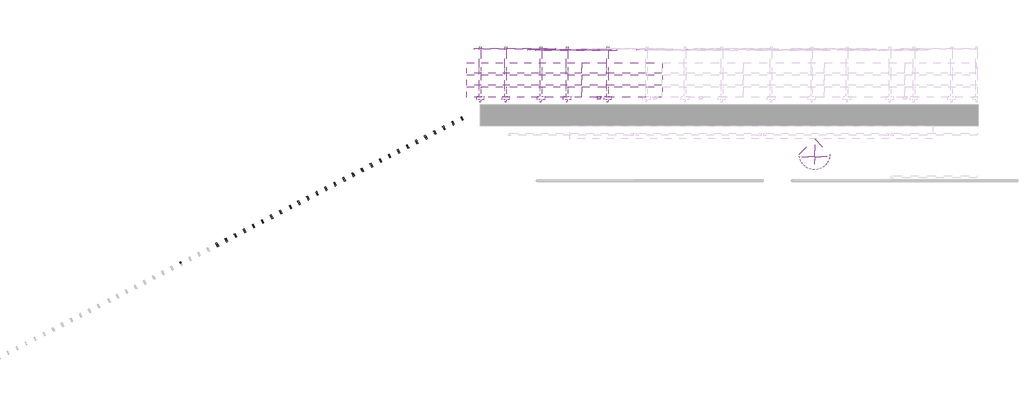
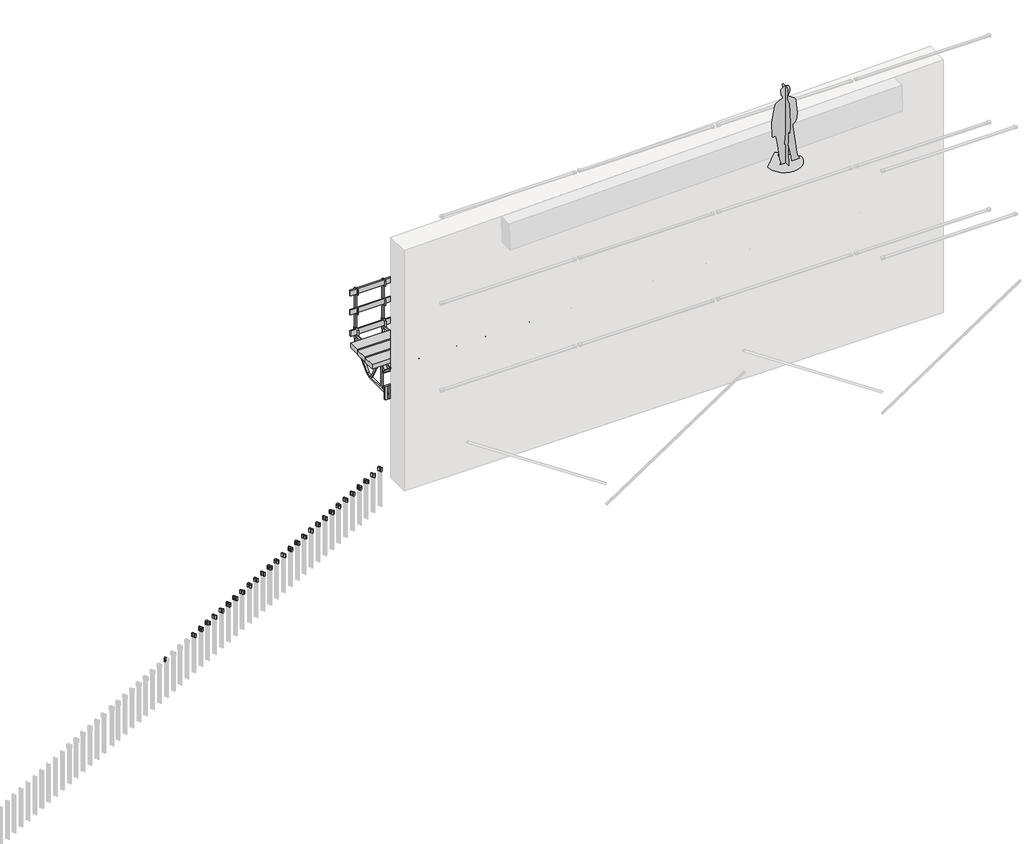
# One storey, part 2 of 7: 132 proxies.
"""IFC4 building model written with IfcOpenShell, lengths in millimetres."""

from ifc_helpers import new_model, si_unit, origin, place, context, project, spatial, transform, mapped, element, save
from components import generic_models_e9040c9c, entourage_6f5007d1, proxy_023680_023680_f2ad0c72, proxy_030370_030370_bbd11c5f, proxy_070711_070711_7d9b2813, proxy_070711_070711_45b70f32, proxy_070711_070711_53d268a1, proxy_070711_070711_2e114157

model = new_model("IFC4")

# Units and contexts
model_context = context("Model", 3, world=origin())
ifc_project = project(units=[si_unit("LENGTHUNIT", "METRE", prefix="MILLI")], contexts=[model_context])

# Site, building, storey
site = spatial("IfcSite", under=ifc_project)
building = spatial("IfcBuilding", under=site)
storey = spatial("IfcBuildingStorey", under=building, Name="Niveau bas piédroits", Elevation=1000.0)

# Proxies
placement = place(None, origin())
generic_models_shape = generic_models_e9040c9c(model_context)
element("IfcBuildingElementProxy", 1, Name="Bouchon de sécurité vertical : Bouchon de sécurité vertical", ObjectType="Bouchon de sécurité vertical : Bouchon de sécurité vertical", at=placement, inside=storey, context=model_context, shape_type="MappedRepresentation", body=[
    mapped(generic_models_shape, transform((-17434.0603814, -7072.0590821, 1504.6594135), x_axis=(0.8886485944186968, 0.45858878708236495, 0.0), y_axis=(-0.45858878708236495, 0.8886485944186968, 0.0), z_axis=(0.0, 0.0, 1.0))),
])
element("IfcBuildingElementProxy", 2, Name="Bouchon de sécurité vertical : Bouchon de sécurité vertical", ObjectType="Bouchon de sécurité vertical : Bouchon de sécurité vertical", at=placement, inside=storey, context=model_context, shape_type="MappedRepresentation", body=[
    mapped(generic_models_shape, transform((-17647.336044, -7182.120391, 1504.6594135), x_axis=(0.8886485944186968, 0.45858878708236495, 0.0), y_axis=(-0.45858878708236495, 0.8886485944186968, 0.0), z_axis=(0.0, 0.0, 1.0))),
])
element("IfcBuildingElementProxy", 3, Name="Bouchon de sécurité vertical : Bouchon de sécurité vertical", ObjectType="Bouchon de sécurité vertical : Bouchon de sécurité vertical", at=placement, inside=storey, context=model_context, shape_type="MappedRepresentation", body=[
    mapped(generic_models_shape, transform((-17860.6117067, -7292.1816999, 1504.6594135), x_axis=(0.8886485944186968, 0.45858878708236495, 0.0), y_axis=(-0.45858878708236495, 0.8886485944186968, 0.0), z_axis=(0.0, 0.0, 1.0))),
])
element("IfcBuildingElementProxy", 4, Name="Bouchon de sécurité vertical : Bouchon de sécurité vertical", ObjectType="Bouchon de sécurité vertical : Bouchon de sécurité vertical", at=placement, inside=storey, context=model_context, shape_type="MappedRepresentation", body=[
    mapped(generic_models_shape, transform((-17220.7847187, -6961.9977732, 1504.6594135), x_axis=(0.8886485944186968, 0.45858878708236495, 0.0), y_axis=(-0.45858878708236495, 0.8886485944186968, 0.0), z_axis=(0.0, 0.0, 1.0))),
])
element("IfcBuildingElementProxy", 5, Name="Bouchon de sécurité vertical : Bouchon de sécurité vertical", ObjectType="Bouchon de sécurité vertical : Bouchon de sécurité vertical", at=placement, inside=storey, context=model_context, shape_type="MappedRepresentation", body=[
    mapped(generic_models_shape, transform((-17007.5090561, -6851.9364643, 1504.6594135), x_axis=(0.8886485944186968, 0.45858878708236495, 0.0), y_axis=(-0.45858878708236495, 0.8886485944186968, 0.0), z_axis=(0.0, 0.0, 1.0))),
])
element("IfcBuildingElementProxy", 6, Name="Bouchon de sécurité vertical : Bouchon de sécurité vertical", ObjectType="Bouchon de sécurité vertical : Bouchon de sécurité vertical", at=placement, inside=storey, context=model_context, shape_type="MappedRepresentation", body=[
    mapped(generic_models_shape, transform((-16794.2333934, -6741.8751554, 1504.6594135), x_axis=(0.8886485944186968, 0.45858878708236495, 0.0), y_axis=(-0.45858878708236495, 0.8886485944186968, 0.0), z_axis=(0.0, 0.0, 1.0))),
])
element("IfcBuildingElementProxy", 7, Name="Bouchon de sécurité vertical : Bouchon de sécurité vertical", ObjectType="Bouchon de sécurité vertical : Bouchon de sécurité vertical", at=placement, inside=storey, context=model_context, shape_type="MappedRepresentation", body=[
    mapped(generic_models_shape, transform((-16580.9577307, -6631.8138465, 1504.6594135), x_axis=(0.8886485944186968, 0.45858878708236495, 0.0), y_axis=(-0.45858878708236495, 0.8886485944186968, 0.0), z_axis=(0.0, 0.0, 1.0))),
])
element("IfcBuildingElementProxy", 8, Name="Bouchon de sécurité vertical : Bouchon de sécurité vertical", ObjectType="Bouchon de sécurité vertical : Bouchon de sécurité vertical", at=placement, inside=storey, context=model_context, shape_type="MappedRepresentation", body=[
    mapped(generic_models_shape, transform((-16367.6820681, -6521.7525376, 1504.6594135), x_axis=(0.8886485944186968, 0.45858878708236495, 0.0), y_axis=(-0.45858878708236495, 0.8886485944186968, 0.0), z_axis=(0.0, 0.0, 1.0))),
])
element("IfcBuildingElementProxy", 9, Name="Bouchon de sécurité vertical : Bouchon de sécurité vertical", ObjectType="Bouchon de sécurité vertical : Bouchon de sécurité vertical", at=placement, inside=storey, context=model_context, shape_type="MappedRepresentation", body=[
    mapped(generic_models_shape, transform((-17459.2827647, -7023.1834094, 1504.6594135), x_axis=(0.8886485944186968, 0.45858878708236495, 0.0), y_axis=(-0.45858878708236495, 0.8886485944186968, 0.0), z_axis=(0.0, 0.0, 1.0))),
])
element("IfcBuildingElementProxy", 10, Name="Bouchon de sécurité vertical : Bouchon de sécurité vertical", ObjectType="Bouchon de sécurité vertical : Bouchon de sécurité vertical", at=placement, inside=storey, context=model_context, shape_type="MappedRepresentation", body=[
    mapped(generic_models_shape, transform((-17672.5584273, -7133.2447183, 1504.6594135), x_axis=(0.8886485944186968, 0.45858878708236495, 0.0), y_axis=(-0.45858878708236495, 0.8886485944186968, 0.0), z_axis=(0.0, 0.0, 1.0))),
])
element("IfcBuildingElementProxy", 11, Name="Bouchon de sécurité vertical : Bouchon de sécurité vertical", ObjectType="Bouchon de sécurité vertical : Bouchon de sécurité vertical", at=placement, inside=storey, context=model_context, shape_type="MappedRepresentation", body=[
    mapped(generic_models_shape, transform((-17885.83409, -7243.3060272, 1504.6594135), x_axis=(0.8886485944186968, 0.45858878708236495, 0.0), y_axis=(-0.45858878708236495, 0.8886485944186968, 0.0), z_axis=(0.0, 0.0, 1.0))),
])
element("IfcBuildingElementProxy", 12, Name="Bouchon de sécurité vertical : Bouchon de sécurité vertical", ObjectType="Bouchon de sécurité vertical : Bouchon de sécurité vertical", at=placement, inside=storey, context=model_context, shape_type="MappedRepresentation", body=[
    mapped(generic_models_shape, transform((-17246.007102, -6913.1221005, 1504.6594135), x_axis=(0.8886485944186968, 0.45858878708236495, 0.0), y_axis=(-0.45858878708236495, 0.8886485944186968, 0.0), z_axis=(0.0, 0.0, 1.0))),
])
element("IfcBuildingElementProxy", 13, Name="Bouchon de sécurité vertical : Bouchon de sécurité vertical", ObjectType="Bouchon de sécurité vertical : Bouchon de sécurité vertical", at=placement, inside=storey, context=model_context, shape_type="MappedRepresentation", body=[
    mapped(generic_models_shape, transform((-17032.7314393, -6803.0607916, 1504.6594135), x_axis=(0.8886485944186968, 0.45858878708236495, 0.0), y_axis=(-0.45858878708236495, 0.8886485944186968, 0.0), z_axis=(0.0, 0.0, 1.0))),
])
element("IfcBuildingElementProxy", 14, Name="Bouchon de sécurité vertical : Bouchon de sécurité vertical", ObjectType="Bouchon de sécurité vertical : Bouchon de sécurité vertical", at=placement, inside=storey, context=model_context, shape_type="MappedRepresentation", body=[
    mapped(generic_models_shape, transform((-18739.4150287, -7683.7980843, 1504.6594135), x_axis=(0.8886485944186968, 0.45858878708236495, 0.0), y_axis=(-0.45858878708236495, 0.8886485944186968, 0.0), z_axis=(0.0, 0.0, 1.0))),
])
element("IfcBuildingElementProxy", 15, Name="Bouchon de sécurité vertical : Bouchon de sécurité vertical", ObjectType="Bouchon de sécurité vertical : Bouchon de sécurité vertical", at=placement, inside=storey, context=model_context, shape_type="MappedRepresentation", body=[
    mapped(generic_models_shape, transform((-16819.4557767, -6692.9994827, 1504.6594135), x_axis=(0.8886485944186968, 0.45858878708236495, 0.0), y_axis=(-0.45858878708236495, 0.8886485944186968, 0.0), z_axis=(0.0, 0.0, 1.0))),
])
element("IfcBuildingElementProxy", 16, Name="Bouchon de sécurité vertical : Bouchon de sécurité vertical", ObjectType="Bouchon de sécurité vertical : Bouchon de sécurité vertical", at=placement, inside=storey, context=model_context, shape_type="MappedRepresentation", body=[
    mapped(generic_models_shape, transform((-16606.180114, -6582.9381738, 1504.6594135), x_axis=(0.8886485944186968, 0.45858878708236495, 0.0), y_axis=(-0.45858878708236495, 0.8886485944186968, 0.0), z_axis=(0.0, 0.0, 1.0))),
])
element("IfcBuildingElementProxy", 17, Name="Bouchon de sécurité vertical : Bouchon de sécurité vertical", ObjectType="Bouchon de sécurité vertical : Bouchon de sécurité vertical", at=placement, inside=storey, context=model_context, shape_type="MappedRepresentation", body=[
    mapped(generic_models_shape, transform((-16392.9044514, -6472.8768649, 1504.6594135), x_axis=(0.8886485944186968, 0.45858878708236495, 0.0), y_axis=(-0.45858878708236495, 0.8886485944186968, 0.0), z_axis=(0.0, 0.0, 1.0))),
])
element("IfcBuildingElementProxy", 18, Name="Bouchon de sécurité vertical : Bouchon de sécurité vertical", ObjectType="Bouchon de sécurité vertical : Bouchon de sécurité vertical", at=placement, inside=storey, context=model_context, shape_type="MappedRepresentation", body=[
    mapped(generic_models_shape, transform((-13168.5471282, -4870.8329041, 1504.6594135), x_axis=(0.8886485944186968, 0.45858878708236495, 0.0), y_axis=(-0.45858878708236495, 0.8886485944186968, 0.0), z_axis=(0.0, 0.0, 1.0))),
])
element("IfcBuildingElementProxy", 19, Name="Bouchon de sécurité vertical : Bouchon de sécurité vertical", ObjectType="Bouchon de sécurité vertical : Bouchon de sécurité vertical", at=placement, inside=storey, context=model_context, shape_type="MappedRepresentation", body=[
    mapped(generic_models_shape, transform((-13381.8227908, -4980.894213, 1504.6594135), x_axis=(0.8886485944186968, 0.45858878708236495, 0.0), y_axis=(-0.45858878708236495, 0.8886485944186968, 0.0), z_axis=(0.0, 0.0, 1.0))),
])
element("IfcBuildingElementProxy", 20, Name="Bouchon de sécurité vertical : Bouchon de sécurité vertical", ObjectType="Bouchon de sécurité vertical : Bouchon de sécurité vertical", at=placement, inside=storey, context=model_context, shape_type="MappedRepresentation", body=[
    mapped(generic_models_shape, transform((-13595.0984535, -5090.9555219, 1504.6594135), x_axis=(0.8886485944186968, 0.45858878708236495, 0.0), y_axis=(-0.45858878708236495, 0.8886485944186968, 0.0), z_axis=(0.0, 0.0, 1.0))),
])
element("IfcBuildingElementProxy", 21, Name="Bouchon de sécurité vertical : Bouchon de sécurité vertical", ObjectType="Bouchon de sécurité vertical : Bouchon de sécurité vertical", at=placement, inside=storey, context=model_context, shape_type="MappedRepresentation", body=[
    mapped(generic_models_shape, transform((-13808.3741161, -5201.0168308, 1504.6594135), x_axis=(0.8886485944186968, 0.45858878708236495, 0.0), y_axis=(-0.45858878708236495, 0.8886485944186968, 0.0), z_axis=(0.0, 0.0, 1.0))),
])
element("IfcBuildingElementProxy", 22, Name="Bouchon de sécurité vertical : Bouchon de sécurité vertical", ObjectType="Bouchon de sécurité vertical : Bouchon de sécurité vertical", at=placement, inside=storey, context=model_context, shape_type="MappedRepresentation", body=[
    mapped(generic_models_shape, transform((-14021.6497788, -5311.0781397, 1504.6594135), x_axis=(0.8886485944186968, 0.45858878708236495, 0.0), y_axis=(-0.45858878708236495, 0.8886485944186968, 0.0), z_axis=(0.0, 0.0, 1.0))),
])
element("IfcBuildingElementProxy", 23, Name="Bouchon de sécurité vertical : Bouchon de sécurité vertical", ObjectType="Bouchon de sécurité vertical : Bouchon de sécurité vertical", at=placement, inside=storey, context=model_context, shape_type="MappedRepresentation", body=[
    mapped(generic_models_shape, transform((-14234.9254415, -5421.1394486, 1504.6594135), x_axis=(0.8886485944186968, 0.45858878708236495, 0.0), y_axis=(-0.45858878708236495, 0.8886485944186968, 0.0), z_axis=(0.0, 0.0, 1.0))),
])
element("IfcBuildingElementProxy", 24, Name="Bouchon de sécurité vertical : Bouchon de sécurité vertical", ObjectType="Bouchon de sécurité vertical : Bouchon de sécurité vertical", at=placement, inside=storey, context=model_context, shape_type="MappedRepresentation", body=[
    mapped(generic_models_shape, transform((-12955.2714655, -4760.7715952, 1504.6594135), x_axis=(0.8886485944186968, 0.45858878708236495, 0.0), y_axis=(-0.45858878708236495, 0.8886485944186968, 0.0), z_axis=(0.0, 0.0, 1.0))),
])
element("IfcBuildingElementProxy", 25, Name="Bouchon de sécurité vertical : Bouchon de sécurité vertical", ObjectType="Bouchon de sécurité vertical : Bouchon de sécurité vertical", at=placement, inside=storey, context=model_context, shape_type="MappedRepresentation", body=[
    mapped(generic_models_shape, transform((-12741.9958028, -4650.7102863, 1504.6594135), x_axis=(0.8886485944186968, 0.45858878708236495, 0.0), y_axis=(-0.45858878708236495, 0.8886485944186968, 0.0), z_axis=(0.0, 0.0, 1.0))),
])
element("IfcBuildingElementProxy", 26, Name="Bouchon de sécurité vertical : Bouchon de sécurité vertical", ObjectType="Bouchon de sécurité vertical : Bouchon de sécurité vertical", at=placement, inside=storey, context=model_context, shape_type="MappedRepresentation", body=[
    mapped(generic_models_shape, transform((-14661.9550549, -5641.5088879, 1504.6594135), x_axis=(0.8886485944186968, 0.45858878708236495, 0.0), y_axis=(-0.45858878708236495, 0.8886485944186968, 0.0), z_axis=(0.0, 0.0, 1.0))),
])
element("IfcBuildingElementProxy", 27, Name="Bouchon de sécurité vertical : Bouchon de sécurité vertical", ObjectType="Bouchon de sécurité vertical : Bouchon de sécurité vertical", at=placement, inside=storey, context=model_context, shape_type="MappedRepresentation", body=[
    mapped(generic_models_shape, transform((-14448.6793922, -5531.447579, 1504.6594135), x_axis=(0.8886485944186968, 0.45858878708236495, 0.0), y_axis=(-0.45858878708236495, 0.8886485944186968, 0.0), z_axis=(0.0, 0.0, 1.0))),
])
element("IfcBuildingElementProxy", 28, Name="Bouchon de sécurité vertical : Bouchon de sécurité vertical", ObjectType="Bouchon de sécurité vertical : Bouchon de sécurité vertical", at=placement, inside=storey, context=model_context, shape_type="MappedRepresentation", body=[
    mapped(generic_models_shape, transform((-12528.7201402, -4540.6489774, 1504.6594135), x_axis=(0.8886485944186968, 0.45858878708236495, 0.0), y_axis=(-0.45858878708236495, 0.8886485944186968, 0.0), z_axis=(0.0, 0.0, 1.0))),
])
element("IfcBuildingElementProxy", 29, Name="Bouchon de sécurité vertical : Bouchon de sécurité vertical", ObjectType="Bouchon de sécurité vertical : Bouchon de sécurité vertical", at=placement, inside=storey, context=model_context, shape_type="MappedRepresentation", body=[
    mapped(generic_models_shape, transform((-12315.4444775, -4430.5876685, 1504.6594135), x_axis=(0.8886485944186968, 0.45858878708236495, 0.0), y_axis=(-0.45858878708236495, 0.8886485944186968, 0.0), z_axis=(0.0, 0.0, 1.0))),
])
element("IfcBuildingElementProxy", 30, Name="Bouchon de sécurité vertical : Bouchon de sécurité vertical", ObjectType="Bouchon de sécurité vertical : Bouchon de sécurité vertical", at=placement, inside=storey, context=model_context, shape_type="MappedRepresentation", body=[
    mapped(generic_models_shape, transform((-12102.1688149, -4320.5263596, 1504.6594135), x_axis=(0.8886485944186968, 0.45858878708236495, 0.0), y_axis=(-0.45858878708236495, 0.8886485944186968, 0.0), z_axis=(0.0, 0.0, 1.0))),
])
element("IfcBuildingElementProxy", 31, Name="Bouchon de sécurité vertical : Bouchon de sécurité vertical", ObjectType="Bouchon de sécurité vertical : Bouchon de sécurité vertical", at=placement, inside=storey, context=model_context, shape_type="MappedRepresentation", body=[
    mapped(generic_models_shape, transform((-13193.7695115, -4821.9572314, 1504.6594135), x_axis=(0.8886485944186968, 0.45858878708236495, 0.0), y_axis=(-0.45858878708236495, 0.8886485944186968, 0.0), z_axis=(0.0, 0.0, 1.0))),
])
element("IfcBuildingElementProxy", 32, Name="Bouchon de sécurité vertical : Bouchon de sécurité vertical", ObjectType="Bouchon de sécurité vertical : Bouchon de sécurité vertical", at=placement, inside=storey, context=model_context, shape_type="MappedRepresentation", body=[
    mapped(generic_models_shape, transform((-13407.0451741, -4932.0185403, 1504.6594135), x_axis=(0.8886485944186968, 0.45858878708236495, 0.0), y_axis=(-0.45858878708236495, 0.8886485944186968, 0.0), z_axis=(0.0, 0.0, 1.0))),
])
element("IfcBuildingElementProxy", 33, Name="Bouchon de sécurité vertical : Bouchon de sécurité vertical", ObjectType="Bouchon de sécurité vertical : Bouchon de sécurité vertical", at=placement, inside=storey, context=model_context, shape_type="MappedRepresentation", body=[
    mapped(generic_models_shape, transform((-13620.3208368, -5042.0798492, 1504.6594135), x_axis=(0.8886485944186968, 0.45858878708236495, 0.0), y_axis=(-0.45858878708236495, 0.8886485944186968, 0.0), z_axis=(0.0, 0.0, 1.0))),
])
element("IfcBuildingElementProxy", 34, Name="Bouchon de sécurité vertical : Bouchon de sécurité vertical", ObjectType="Bouchon de sécurité vertical : Bouchon de sécurité vertical", at=placement, inside=storey, context=model_context, shape_type="MappedRepresentation", body=[
    mapped(generic_models_shape, transform((-13833.5964994, -5152.1411581, 1504.6594135), x_axis=(0.8886485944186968, 0.45858878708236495, 0.0), y_axis=(-0.45858878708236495, 0.8886485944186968, 0.0), z_axis=(0.0, 0.0, 1.0))),
])
element("IfcBuildingElementProxy", 35, Name="Bouchon de sécurité vertical : Bouchon de sécurité vertical", ObjectType="Bouchon de sécurité vertical : Bouchon de sécurité vertical", at=placement, inside=storey, context=model_context, shape_type="MappedRepresentation", body=[
    mapped(generic_models_shape, transform((-14046.8721621, -5262.202467, 1504.6594135), x_axis=(0.8886485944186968, 0.45858878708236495, 0.0), y_axis=(-0.45858878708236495, 0.8886485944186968, 0.0), z_axis=(0.0, 0.0, 1.0))),
])
element("IfcBuildingElementProxy", 36, Name="Bouchon de sécurité vertical : Bouchon de sécurité vertical", ObjectType="Bouchon de sécurité vertical : Bouchon de sécurité vertical", at=placement, inside=storey, context=model_context, shape_type="MappedRepresentation", body=[
    mapped(generic_models_shape, transform((-14260.1478248, -5372.2637759, 1504.6594135), x_axis=(0.8886485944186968, 0.45858878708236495, 0.0), y_axis=(-0.45858878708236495, 0.8886485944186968, 0.0), z_axis=(0.0, 0.0, 1.0))),
])
element("IfcBuildingElementProxy", 37, Name="Bouchon de sécurité vertical : Bouchon de sécurité vertical", ObjectType="Bouchon de sécurité vertical : Bouchon de sécurité vertical", at=placement, inside=storey, context=model_context, shape_type="MappedRepresentation", body=[
    mapped(generic_models_shape, transform((-12980.4938488, -4711.8959225, 1504.6594135), x_axis=(0.8886485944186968, 0.45858878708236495, 0.0), y_axis=(-0.45858878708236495, 0.8886485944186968, 0.0), z_axis=(0.0, 0.0, 1.0))),
])
element("IfcBuildingElementProxy", 38, Name="Bouchon de sécurité vertical : Bouchon de sécurité vertical", ObjectType="Bouchon de sécurité vertical : Bouchon de sécurité vertical", at=placement, inside=storey, context=model_context, shape_type="MappedRepresentation", body=[
    mapped(generic_models_shape, transform((-12767.2181861, -4601.8346136, 1504.6594135), x_axis=(0.8886485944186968, 0.45858878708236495, 0.0), y_axis=(-0.45858878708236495, 0.8886485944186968, 0.0), z_axis=(0.0, 0.0, 1.0))),
])
element("IfcBuildingElementProxy", 39, Name="Bouchon de sécurité vertical : Bouchon de sécurité vertical", ObjectType="Bouchon de sécurité vertical : Bouchon de sécurité vertical", at=placement, inside=storey, context=model_context, shape_type="MappedRepresentation", body=[
    mapped(generic_models_shape, transform((-14687.1774382, -5592.6332152, 1504.6594135), x_axis=(0.8886485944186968, 0.45858878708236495, 0.0), y_axis=(-0.45858878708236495, 0.8886485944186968, 0.0), z_axis=(0.0, 0.0, 1.0))),
])
element("IfcBuildingElementProxy", 40, Name="Bouchon de sécurité vertical : Bouchon de sécurité vertical", ObjectType="Bouchon de sécurité vertical : Bouchon de sécurité vertical", at=placement, inside=storey, context=model_context, shape_type="MappedRepresentation", body=[
    mapped(generic_models_shape, transform((-14473.9017755, -5482.5719063, 1504.6594135), x_axis=(0.8886485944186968, 0.45858878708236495, 0.0), y_axis=(-0.45858878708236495, 0.8886485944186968, 0.0), z_axis=(0.0, 0.0, 1.0))),
])
element("IfcBuildingElementProxy", 41, Name="Bouchon de sécurité vertical : Bouchon de sécurité vertical", ObjectType="Bouchon de sécurité vertical : Bouchon de sécurité vertical", at=placement, inside=storey, context=model_context, shape_type="MappedRepresentation", body=[
    mapped(generic_models_shape, transform((-12553.9425235, -4491.7733047, 1504.6594135), x_axis=(0.8886485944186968, 0.45858878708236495, 0.0), y_axis=(-0.45858878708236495, 0.8886485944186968, 0.0), z_axis=(0.0, 0.0, 1.0))),
])
element("IfcBuildingElementProxy", 42, Name="Bouchon de sécurité vertical : Bouchon de sécurité vertical", ObjectType="Bouchon de sécurité vertical : Bouchon de sécurité vertical", at=placement, inside=storey, context=model_context, shape_type="MappedRepresentation", body=[
    mapped(generic_models_shape, transform((-12340.6668608, -4381.7119958, 1504.6594135), x_axis=(0.8886485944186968, 0.45858878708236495, 0.0), y_axis=(-0.45858878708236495, 0.8886485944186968, 0.0), z_axis=(0.0, 0.0, 1.0))),
])
element("IfcBuildingElementProxy", 43, Name="Bouchon de sécurité vertical : Bouchon de sécurité vertical", ObjectType="Bouchon de sécurité vertical : Bouchon de sécurité vertical", at=placement, inside=storey, context=model_context, shape_type="MappedRepresentation", body=[
    mapped(generic_models_shape, transform((-12127.3911982, -4271.6506869, 1504.6594135), x_axis=(0.8886485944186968, 0.45858878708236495, 0.0), y_axis=(-0.45858878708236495, 0.8886485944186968, 0.0), z_axis=(0.0, 0.0, 1.0))),
])
element("IfcBuildingElementProxy", 44, Name="Bouchon de sécurité vertical : Bouchon de sécurité vertical", ObjectType="Bouchon de sécurité vertical : Bouchon de sécurité vertical", at=placement, inside=storey, context=model_context, shape_type="MappedRepresentation", body=[
    mapped(generic_models_shape, transform((-14875.7966207, -5750.4666078, 1504.6594135), x_axis=(0.8886485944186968, 0.45858878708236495, 0.0), y_axis=(-0.45858878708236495, 0.8886485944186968, 0.0), z_axis=(0.0, 0.0, 1.0))),
])
element("IfcBuildingElementProxy", 45, Name="Bouchon de sécurité vertical : Bouchon de sécurité vertical", ObjectType="Bouchon de sécurité vertical : Bouchon de sécurité vertical", at=placement, inside=storey, context=model_context, shape_type="MappedRepresentation", body=[
    mapped(generic_models_shape, transform((-14901.019004, -5701.5909351, 1504.6594135), x_axis=(0.8886485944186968, 0.45858878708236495, 0.0), y_axis=(-0.45858878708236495, 0.8886485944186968, 0.0), z_axis=(0.0, 0.0, 1.0))),
])
element("IfcBuildingElementProxy", 46, Name="Bouchon de sécurité vertical : Bouchon de sécurité vertical", ObjectType="Bouchon de sécurité vertical : Bouchon de sécurité vertical", at=placement, inside=storey, context=model_context, shape_type="MappedRepresentation", body=[
    mapped(generic_models_shape, transform((-15088.8560142, -5864.3627695, 1504.6594135), x_axis=(0.8886485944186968, 0.45858878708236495, 0.0), y_axis=(-0.45858878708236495, 0.8886485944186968, 0.0), z_axis=(0.0, 0.0, 1.0))),
])
element("IfcBuildingElementProxy", 47, Name="Bouchon de sécurité vertical : Bouchon de sécurité vertical", ObjectType="Bouchon de sécurité vertical : Bouchon de sécurité vertical", at=placement, inside=storey, context=model_context, shape_type="MappedRepresentation", body=[
    mapped(generic_models_shape, transform((-15114.0783975, -5815.4870968, 1504.6594135), x_axis=(0.8886485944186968, 0.45858878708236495, 0.0), y_axis=(-0.45858878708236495, 0.8886485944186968, 0.0), z_axis=(0.0, 0.0, 1.0))),
])
element("IfcBuildingElementProxy", 48, Name="Bouchon de sécurité vertical : Bouchon de sécurité vertical", ObjectType="Bouchon de sécurité vertical : Bouchon de sécurité vertical", at=placement, inside=storey, context=model_context, shape_type="MappedRepresentation", body=[
    mapped(generic_models_shape, transform((-15301.5456088, -5972.0975028, 1504.6594135), x_axis=(0.8886485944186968, 0.45858878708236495, 0.0), y_axis=(-0.45858878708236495, 0.8886485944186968, 0.0), z_axis=(0.0, 0.0, 1.0))),
])
element("IfcBuildingElementProxy", 49, Name="Bouchon de sécurité vertical : Bouchon de sécurité vertical", ObjectType="Bouchon de sécurité vertical : Bouchon de sécurité vertical", at=placement, inside=storey, context=model_context, shape_type="MappedRepresentation", body=[
    mapped(generic_models_shape, transform((-15326.7679921, -5923.2218301, 1504.6594135), x_axis=(0.8886485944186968, 0.45858878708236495, 0.0), y_axis=(-0.45858878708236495, 0.8886485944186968, 0.0), z_axis=(0.0, 0.0, 1.0))),
])
element("IfcBuildingElementProxy", 50, Name="Bouchon de sécurité vertical : Bouchon de sécurité vertical", ObjectType="Bouchon de sécurité vertical : Bouchon de sécurité vertical", at=placement, inside=storey, context=model_context, shape_type="MappedRepresentation", body=[
    mapped(generic_models_shape, transform((-15514.8212714, -6082.1588117, 1504.6594135), x_axis=(0.8886485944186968, 0.45858878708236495, 0.0), y_axis=(-0.45858878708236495, 0.8886485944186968, 0.0), z_axis=(0.0, 0.0, 1.0))),
])
element("IfcBuildingElementProxy", 51, Name="Bouchon de sécurité vertical : Bouchon de sécurité vertical", ObjectType="Bouchon de sécurité vertical : Bouchon de sécurité vertical", at=placement, inside=storey, context=model_context, shape_type="MappedRepresentation", body=[
    mapped(generic_models_shape, transform((-15540.0436547, -6033.283139, 1504.6594135), x_axis=(0.8886485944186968, 0.45858878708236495, 0.0), y_axis=(-0.45858878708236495, 0.8886485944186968, 0.0), z_axis=(0.0, 0.0, 1.0))),
])
element("IfcBuildingElementProxy", 52, Name="Bouchon de sécurité vertical : Bouchon de sécurité vertical", ObjectType="Bouchon de sécurité vertical : Bouchon de sécurité vertical", at=placement, inside=storey, context=model_context, shape_type="MappedRepresentation", body=[
    mapped(generic_models_shape, transform((-15727.8045911, -6194.0103647, 1504.6594135), x_axis=(0.8886485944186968, 0.45858878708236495, 0.0), y_axis=(-0.45858878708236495, 0.8886485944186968, 0.0), z_axis=(0.0, 0.0, 1.0))),
])
element("IfcBuildingElementProxy", 53, Name="Bouchon de sécurité vertical : Bouchon de sécurité vertical", ObjectType="Bouchon de sécurité vertical : Bouchon de sécurité vertical", at=placement, inside=storey, context=model_context, shape_type="MappedRepresentation", body=[
    mapped(generic_models_shape, transform((-15753.0269744, -6145.134692, 1504.6594135), x_axis=(0.8886485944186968, 0.45858878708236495, 0.0), y_axis=(-0.45858878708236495, 0.8886485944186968, 0.0), z_axis=(0.0, 0.0, 1.0))),
])
element("IfcBuildingElementProxy", 54, Name="Bouchon de sécurité vertical : Bouchon de sécurité vertical", ObjectType="Bouchon de sécurité vertical : Bouchon de sécurité vertical", at=placement, inside=storey, context=model_context, shape_type="MappedRepresentation", body=[
    mapped(generic_models_shape, transform((-15940.4941857, -6301.7450981, 1504.6594135), x_axis=(0.8886485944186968, 0.45858878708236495, 0.0), y_axis=(-0.45858878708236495, 0.8886485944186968, 0.0), z_axis=(0.0, 0.0, 1.0))),
])
element("IfcBuildingElementProxy", 55, Name="Bouchon de sécurité vertical : Bouchon de sécurité vertical", ObjectType="Bouchon de sécurité vertical : Bouchon de sécurité vertical", at=placement, inside=storey, context=model_context, shape_type="MappedRepresentation", body=[
    mapped(generic_models_shape, transform((-15965.716569, -6252.8694254, 1504.6594135), x_axis=(0.8886485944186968, 0.45858878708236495, 0.0), y_axis=(-0.45858878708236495, 0.8886485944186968, 0.0), z_axis=(0.0, 0.0, 1.0))),
])
element("IfcBuildingElementProxy", 56, Name="Bouchon de sécurité vertical : Bouchon de sécurité vertical", ObjectType="Bouchon de sécurité vertical : Bouchon de sécurité vertical", at=placement, inside=storey, context=model_context, shape_type="MappedRepresentation", body=[
    mapped(generic_models_shape, transform((-16136.5156211, -6401.623008, 1504.6594135), x_axis=(0.8886485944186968, 0.45858878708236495, 0.0), y_axis=(-0.45858878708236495, 0.8886485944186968, 0.0), z_axis=(0.0, 0.0, 1.0))),
])
element("IfcBuildingElementProxy", 57, Name="Bouchon de sécurité vertical : Bouchon de sécurité vertical", ObjectType="Bouchon de sécurité vertical : Bouchon de sécurité vertical", at=placement, inside=storey, context=model_context, shape_type="MappedRepresentation", body=[
    mapped(generic_models_shape, transform((-16161.7380043, -6352.7473353, 1504.6594135), x_axis=(0.8886485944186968, 0.45858878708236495, 0.0), y_axis=(-0.45858878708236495, 0.8886485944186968, 0.0), z_axis=(0.0, 0.0, 1.0))),
])
element("IfcBuildingElementProxy", 58, Name="Bouchon de sécurité vertical : Bouchon de sécurité vertical", ObjectType="Bouchon de sécurité vertical : Bouchon de sécurité vertical", at=placement, inside=storey, context=model_context, shape_type="MappedRepresentation", body=[
    mapped(generic_models_shape, transform((-7462.9685766, -4304.6217934, 1708.9775513), x_axis=(1.0, 0.0, 0.0), y_axis=(0.0, 1.0, 0.0), z_axis=(0.0, 0.0, 1.0))),
])
element("IfcBuildingElementProxy", 59, Name="Bouchon de sécurité vertical : Bouchon de sécurité vertical", ObjectType="Bouchon de sécurité vertical : Bouchon de sécurité vertical", at=placement, inside=storey, context=model_context, shape_type="MappedRepresentation", body=[
    mapped(generic_models_shape, transform((-7702.9685766, -4304.6217934, 1708.9775513), x_axis=(1.0, 0.0, 0.0), y_axis=(0.0, 1.0, 0.0), z_axis=(0.0, 0.0, 1.0))),
])
element("IfcBuildingElementProxy", 60, Name="Bouchon de sécurité vertical : Bouchon de sécurité vertical", ObjectType="Bouchon de sécurité vertical : Bouchon de sécurité vertical", at=placement, inside=storey, context=model_context, shape_type="MappedRepresentation", body=[
    mapped(generic_models_shape, transform((-7942.9685766, -4304.6217934, 1708.9775513), x_axis=(1.0, 0.0, 0.0), y_axis=(0.0, 1.0, 0.0), z_axis=(0.0, 0.0, 1.0))),
])
element("IfcBuildingElementProxy", 61, Name="Bouchon de sécurité vertical : Bouchon de sécurité vertical", ObjectType="Bouchon de sécurité vertical : Bouchon de sécurité vertical", at=placement, inside=storey, context=model_context, shape_type="MappedRepresentation", body=[
    mapped(generic_models_shape, transform((-8182.9685766, -4304.6217934, 1708.9775513), x_axis=(1.0, 0.0, 0.0), y_axis=(0.0, 1.0, 0.0), z_axis=(0.0, 0.0, 1.0))),
])
element("IfcBuildingElementProxy", 62, Name="Bouchon de sécurité vertical : Bouchon de sécurité vertical", ObjectType="Bouchon de sécurité vertical : Bouchon de sécurité vertical", at=placement, inside=storey, context=model_context, shape_type="MappedRepresentation", body=[
    mapped(generic_models_shape, transform((-8422.9685766, -4304.6217934, 1708.9775513), x_axis=(1.0, 0.0, 0.0), y_axis=(0.0, 1.0, 0.0), z_axis=(0.0, 0.0, 1.0))),
])
element("IfcBuildingElementProxy", 63, Name="Bouchon de sécurité vertical : Bouchon de sécurité vertical", ObjectType="Bouchon de sécurité vertical : Bouchon de sécurité vertical", at=placement, inside=storey, context=model_context, shape_type="MappedRepresentation", body=[
    mapped(generic_models_shape, transform((-8662.9685766, -4304.6217934, 1708.9775513), x_axis=(1.0, 0.0, 0.0), y_axis=(0.0, 1.0, 0.0), z_axis=(0.0, 0.0, 1.0))),
])
element("IfcBuildingElementProxy", 64, Name="Bouchon de sécurité vertical : Bouchon de sécurité vertical", ObjectType="Bouchon de sécurité vertical : Bouchon de sécurité vertical", at=placement, inside=storey, context=model_context, shape_type="MappedRepresentation", body=[
    mapped(generic_models_shape, transform((-8902.9685766, -4304.6217934, 1708.9775513), x_axis=(1.0, 0.0, 0.0), y_axis=(0.0, 1.0, 0.0), z_axis=(0.0, 0.0, 1.0))),
])
element("IfcBuildingElementProxy", 65, Name="Bouchon de sécurité vertical : Bouchon de sécurité vertical", ObjectType="Bouchon de sécurité vertical : Bouchon de sécurité vertical", at=placement, inside=storey, context=model_context, shape_type="MappedRepresentation", body=[
    mapped(generic_models_shape, transform((-9142.9685766, -4304.6217934, 1708.9775513), x_axis=(1.0, 0.0, 0.0), y_axis=(0.0, 1.0, 0.0), z_axis=(0.0, 0.0, 1.0))),
])
element("IfcBuildingElementProxy", 66, Name="Bouchon de sécurité vertical : Bouchon de sécurité vertical", ObjectType="Bouchon de sécurité vertical : Bouchon de sécurité vertical", at=placement, inside=storey, context=model_context, shape_type="MappedRepresentation", body=[
    mapped(generic_models_shape, transform((-9382.9685766, -4304.6217934, 1708.9775513), x_axis=(1.0, 0.0, 0.0), y_axis=(0.0, 1.0, 0.0), z_axis=(0.0, 0.0, 1.0))),
])
element("IfcBuildingElementProxy", 67, Name="Bouchon de sécurité vertical : Bouchon de sécurité vertical", ObjectType="Bouchon de sécurité vertical : Bouchon de sécurité vertical", at=placement, inside=storey, context=model_context, shape_type="MappedRepresentation", body=[
    mapped(generic_models_shape, transform((-9622.9685766, -4304.6217934, 1708.9775513), x_axis=(1.0, 0.0, 0.0), y_axis=(0.0, 1.0, 0.0), z_axis=(0.0, 0.0, 1.0))),
])
element("IfcBuildingElementProxy", 68, Name="Bouchon de sécurité vertical : Bouchon de sécurité vertical", ObjectType="Bouchon de sécurité vertical : Bouchon de sécurité vertical", at=placement, inside=storey, context=model_context, shape_type="MappedRepresentation", body=[
    mapped(generic_models_shape, transform((-9862.9685766, -4304.6217934, 1708.9775513), x_axis=(1.0, 0.0, 0.0), y_axis=(0.0, 1.0, 0.0), z_axis=(0.0, 0.0, 1.0))),
])
element("IfcBuildingElementProxy", 69, Name="Bouchon de sécurité vertical : Bouchon de sécurité vertical", ObjectType="Bouchon de sécurité vertical : Bouchon de sécurité vertical", at=placement, inside=storey, context=model_context, shape_type="MappedRepresentation", body=[
    mapped(generic_models_shape, transform((-10102.9685766, -4304.6217934, 1708.9775513), x_axis=(1.0, 0.0, 0.0), y_axis=(0.0, 1.0, 0.0), z_axis=(0.0, 0.0, 1.0))),
])
element("IfcBuildingElementProxy", 70, Name="Bouchon de sécurité vertical : Bouchon de sécurité vertical", ObjectType="Bouchon de sécurité vertical : Bouchon de sécurité vertical", at=placement, inside=storey, context=model_context, shape_type="MappedRepresentation", body=[
    mapped(generic_models_shape, transform((-10322.9685766, -4304.6217934, 1708.9775513), x_axis=(1.0, 0.0, 0.0), y_axis=(0.0, 1.0, 0.0), z_axis=(0.0, 0.0, 1.0))),
])
element("IfcBuildingElementProxy", 71, Name="Bouchon de sécurité vertical : Bouchon de sécurité vertical", ObjectType="Bouchon de sécurité vertical : Bouchon de sécurité vertical", at=placement, inside=storey, context=model_context, shape_type="MappedRepresentation", body=[
    mapped(generic_models_shape, transform((-7222.9685766, -4304.6217934, 1708.9775513), x_axis=(1.0, 0.0, 0.0), y_axis=(0.0, 1.0, 0.0), z_axis=(0.0, 0.0, 1.0))),
])
element("IfcBuildingElementProxy", 72, Name="Bouchon de sécurité vertical : Bouchon de sécurité vertical", ObjectType="Bouchon de sécurité vertical : Bouchon de sécurité vertical", at=placement, inside=storey, context=model_context, shape_type="MappedRepresentation", body=[
    mapped(generic_models_shape, transform((-6982.9685766, -4304.6217934, 1708.9775513), x_axis=(1.0, 0.0, 0.0), y_axis=(0.0, 1.0, 0.0), z_axis=(0.0, 0.0, 1.0))),
])
element("IfcBuildingElementProxy", 73, Name="Bouchon de sécurité vertical : Bouchon de sécurité vertical", ObjectType="Bouchon de sécurité vertical : Bouchon de sécurité vertical", at=placement, inside=storey, context=model_context, shape_type="MappedRepresentation", body=[
    mapped(generic_models_shape, transform((-5502.8826516, -4304.6217934, 1708.9775513), x_axis=(1.0, 0.0, 0.0), y_axis=(0.0, 1.0, 0.0), z_axis=(0.0, 0.0, 1.0))),
])
element("IfcBuildingElementProxy", 74, Name="Bouchon de sécurité vertical : Bouchon de sécurité vertical", ObjectType="Bouchon de sécurité vertical : Bouchon de sécurité vertical", at=placement, inside=storey, context=model_context, shape_type="MappedRepresentation", body=[
    mapped(generic_models_shape, transform((-5782.9685766, -4304.6217934, 1708.9775513), x_axis=(1.0, 0.0, 0.0), y_axis=(0.0, 1.0, 0.0), z_axis=(0.0, 0.0, 1.0))),
])
element("IfcBuildingElementProxy", 75, Name="Bouchon de sécurité vertical : Bouchon de sécurité vertical", ObjectType="Bouchon de sécurité vertical : Bouchon de sécurité vertical", at=placement, inside=storey, context=model_context, shape_type="MappedRepresentation", body=[
    mapped(generic_models_shape, transform((-6022.9685766, -4304.6217934, 1708.9775513), x_axis=(1.0, 0.0, 0.0), y_axis=(0.0, 1.0, 0.0), z_axis=(0.0, 0.0, 1.0))),
])
element("IfcBuildingElementProxy", 76, Name="Bouchon de sécurité vertical : Bouchon de sécurité vertical", ObjectType="Bouchon de sécurité vertical : Bouchon de sécurité vertical", at=placement, inside=storey, context=model_context, shape_type="MappedRepresentation", body=[
    mapped(generic_models_shape, transform((-6262.9685766, -4304.6217934, 1708.9775513), x_axis=(1.0, 0.0, 0.0), y_axis=(0.0, 1.0, 0.0), z_axis=(0.0, 0.0, 1.0))),
])
element("IfcBuildingElementProxy", 77, Name="Bouchon de sécurité vertical : Bouchon de sécurité vertical", ObjectType="Bouchon de sécurité vertical : Bouchon de sécurité vertical", at=placement, inside=storey, context=model_context, shape_type="MappedRepresentation", body=[
    mapped(generic_models_shape, transform((-6502.9685766, -4304.6217934, 1708.9775513), x_axis=(1.0, 0.0, 0.0), y_axis=(0.0, 1.0, 0.0), z_axis=(0.0, 0.0, 1.0))),
])
element("IfcBuildingElementProxy", 78, Name="Bouchon de sécurité vertical : Bouchon de sécurité vertical", ObjectType="Bouchon de sécurité vertical : Bouchon de sécurité vertical", at=placement, inside=storey, context=model_context, shape_type="MappedRepresentation", body=[
    mapped(generic_models_shape, transform((-6742.9685766, -4304.6217934, 1708.9775513), x_axis=(1.0, 0.0, 0.0), y_axis=(0.0, 1.0, 0.0), z_axis=(0.0, 0.0, 1.0))),
])
element("IfcBuildingElementProxy", 79, Name="Bouchon de sécurité vertical : Bouchon de sécurité vertical", ObjectType="Bouchon de sécurité vertical : Bouchon de sécurité vertical", at=placement, inside=storey, context=model_context, shape_type="MappedRepresentation", body=[
    mapped(generic_models_shape, transform((-5282.9685766, -4304.6217934, 1708.9775513), x_axis=(1.0, 0.0, 0.0), y_axis=(0.0, 1.0, 0.0), z_axis=(0.0, 0.0, 1.0))),
])
element("IfcBuildingElementProxy", 80, Name="Bouchon de sécurité vertical : Bouchon de sécurité vertical", ObjectType="Bouchon de sécurité vertical : Bouchon de sécurité vertical", at=placement, inside=storey, context=model_context, shape_type="MappedRepresentation", body=[
    mapped(generic_models_shape, transform((-5042.9685766, -4304.6217934, 1708.9775513), x_axis=(1.0, 0.0, 0.0), y_axis=(0.0, 1.0, 0.0), z_axis=(0.0, 0.0, 1.0))),
])
element("IfcBuildingElementProxy", 81, Name="Bouchon de sécurité vertical : Bouchon de sécurité vertical", ObjectType="Bouchon de sécurité vertical : Bouchon de sécurité vertical", at=placement, inside=storey, context=model_context, shape_type="MappedRepresentation", body=[
    mapped(generic_models_shape, transform((-3122.9685766, -4304.6217934, 1708.9775513), x_axis=(1.0, 0.0, 0.0), y_axis=(0.0, 1.0, 0.0), z_axis=(0.0, 0.0, 1.0))),
])
element("IfcBuildingElementProxy", 82, Name="Bouchon de sécurité vertical : Bouchon de sécurité vertical", ObjectType="Bouchon de sécurité vertical : Bouchon de sécurité vertical", at=placement, inside=storey, context=model_context, shape_type="MappedRepresentation", body=[
    mapped(generic_models_shape, transform((-4802.9685766, -4304.6217934, 1708.9775513), x_axis=(1.0, 0.0, 0.0), y_axis=(0.0, 1.0, 0.0), z_axis=(0.0, 0.0, 1.0))),
])
element("IfcBuildingElementProxy", 83, Name="Bouchon de sécurité vertical : Bouchon de sécurité vertical", ObjectType="Bouchon de sécurité vertical : Bouchon de sécurité vertical", at=placement, inside=storey, context=model_context, shape_type="MappedRepresentation", body=[
    mapped(generic_models_shape, transform((-4562.9685766, -4304.6217934, 1708.9775513), x_axis=(1.0, 0.0, 0.0), y_axis=(0.0, 1.0, 0.0), z_axis=(0.0, 0.0, 1.0))),
])
element("IfcBuildingElementProxy", 84, Name="Bouchon de sécurité vertical : Bouchon de sécurité vertical", ObjectType="Bouchon de sécurité vertical : Bouchon de sécurité vertical", at=placement, inside=storey, context=model_context, shape_type="MappedRepresentation", body=[
    mapped(generic_models_shape, transform((-4322.9685766, -4304.6217934, 1708.9775513), x_axis=(1.0, 0.0, 0.0), y_axis=(0.0, 1.0, 0.0), z_axis=(0.0, 0.0, 1.0))),
])
element("IfcBuildingElementProxy", 85, Name="Bouchon de sécurité vertical : Bouchon de sécurité vertical", ObjectType="Bouchon de sécurité vertical : Bouchon de sécurité vertical", at=placement, inside=storey, context=model_context, shape_type="MappedRepresentation", body=[
    mapped(generic_models_shape, transform((-4082.9685766, -4304.6217934, 1708.9775513), x_axis=(1.0, 0.0, 0.0), y_axis=(0.0, 1.0, 0.0), z_axis=(0.0, 0.0, 1.0))),
])
element("IfcBuildingElementProxy", 86, Name="Bouchon de sécurité vertical : Bouchon de sécurité vertical", ObjectType="Bouchon de sécurité vertical : Bouchon de sécurité vertical", at=placement, inside=storey, context=model_context, shape_type="MappedRepresentation", body=[
    mapped(generic_models_shape, transform((-7462.9685766, -4024.6217934, 1708.9775513), x_axis=(1.0, 0.0, 0.0), y_axis=(0.0, 1.0, 0.0), z_axis=(0.0, 0.0, 1.0))),
])
element("IfcBuildingElementProxy", 87, Name="Bouchon de sécurité vertical : Bouchon de sécurité vertical", ObjectType="Bouchon de sécurité vertical : Bouchon de sécurité vertical", at=placement, inside=storey, context=model_context, shape_type="MappedRepresentation", body=[
    mapped(generic_models_shape, transform((-7702.9685766, -4024.6217934, 1708.9775513), x_axis=(1.0, 0.0, 0.0), y_axis=(0.0, 1.0, 0.0), z_axis=(0.0, 0.0, 1.0))),
])
element("IfcBuildingElementProxy", 88, Name="Bouchon de sécurité vertical : Bouchon de sécurité vertical", ObjectType="Bouchon de sécurité vertical : Bouchon de sécurité vertical", at=placement, inside=storey, context=model_context, shape_type="MappedRepresentation", body=[
    mapped(generic_models_shape, transform((-7942.9685766, -4024.6217934, 1708.9775513), x_axis=(1.0, 0.0, 0.0), y_axis=(0.0, 1.0, 0.0), z_axis=(0.0, 0.0, 1.0))),
])
element("IfcBuildingElementProxy", 89, Name="Bouchon de sécurité vertical : Bouchon de sécurité vertical", ObjectType="Bouchon de sécurité vertical : Bouchon de sécurité vertical", at=placement, inside=storey, context=model_context, shape_type="MappedRepresentation", body=[
    mapped(generic_models_shape, transform((-8182.9685766, -4024.6217934, 1708.9775513), x_axis=(1.0, 0.0, 0.0), y_axis=(0.0, 1.0, 0.0), z_axis=(0.0, 0.0, 1.0))),
])
element("IfcBuildingElementProxy", 90, Name="Bouchon de sécurité vertical : Bouchon de sécurité vertical", ObjectType="Bouchon de sécurité vertical : Bouchon de sécurité vertical", at=placement, inside=storey, context=model_context, shape_type="MappedRepresentation", body=[
    mapped(generic_models_shape, transform((-8422.9685766, -4024.6217934, 1708.9775513), x_axis=(1.0, 0.0, 0.0), y_axis=(0.0, 1.0, 0.0), z_axis=(0.0, 0.0, 1.0))),
])
element("IfcBuildingElementProxy", 91, Name="Bouchon de sécurité vertical : Bouchon de sécurité vertical", ObjectType="Bouchon de sécurité vertical : Bouchon de sécurité vertical", at=placement, inside=storey, context=model_context, shape_type="MappedRepresentation", body=[
    mapped(generic_models_shape, transform((-8662.9685766, -4024.6217934, 1708.9775513), x_axis=(1.0, 0.0, 0.0), y_axis=(0.0, 1.0, 0.0), z_axis=(0.0, 0.0, 1.0))),
])
element("IfcBuildingElementProxy", 92, Name="Bouchon de sécurité vertical : Bouchon de sécurité vertical", ObjectType="Bouchon de sécurité vertical : Bouchon de sécurité vertical", at=placement, inside=storey, context=model_context, shape_type="MappedRepresentation", body=[
    mapped(generic_models_shape, transform((-8902.9685766, -4024.6217934, 1708.9775513), x_axis=(1.0, 0.0, 0.0), y_axis=(0.0, 1.0, 0.0), z_axis=(0.0, 0.0, 1.0))),
])
element("IfcBuildingElementProxy", 93, Name="Bouchon de sécurité vertical : Bouchon de sécurité vertical", ObjectType="Bouchon de sécurité vertical : Bouchon de sécurité vertical", at=placement, inside=storey, context=model_context, shape_type="MappedRepresentation", body=[
    mapped(generic_models_shape, transform((-9142.9685766, -4024.6217934, 1708.9775513), x_axis=(1.0, 0.0, 0.0), y_axis=(0.0, 1.0, 0.0), z_axis=(0.0, 0.0, 1.0))),
])
element("IfcBuildingElementProxy", 94, Name="Bouchon de sécurité vertical : Bouchon de sécurité vertical", ObjectType="Bouchon de sécurité vertical : Bouchon de sécurité vertical", at=placement, inside=storey, context=model_context, shape_type="MappedRepresentation", body=[
    mapped(generic_models_shape, transform((-9382.9685766, -4024.6217934, 1708.9775513), x_axis=(1.0, 0.0, 0.0), y_axis=(0.0, 1.0, 0.0), z_axis=(0.0, 0.0, 1.0))),
])
element("IfcBuildingElementProxy", 95, Name="Bouchon de sécurité vertical : Bouchon de sécurité vertical", ObjectType="Bouchon de sécurité vertical : Bouchon de sécurité vertical", at=placement, inside=storey, context=model_context, shape_type="MappedRepresentation", body=[
    mapped(generic_models_shape, transform((-9622.9685766, -4024.6217934, 1708.9775513), x_axis=(1.0, 0.0, 0.0), y_axis=(0.0, 1.0, 0.0), z_axis=(0.0, 0.0, 1.0))),
])
element("IfcBuildingElementProxy", 96, Name="Bouchon de sécurité vertical : Bouchon de sécurité vertical", ObjectType="Bouchon de sécurité vertical : Bouchon de sécurité vertical", at=placement, inside=storey, context=model_context, shape_type="MappedRepresentation", body=[
    mapped(generic_models_shape, transform((-9862.9685766, -4024.6217934, 1708.9775513), x_axis=(1.0, 0.0, 0.0), y_axis=(0.0, 1.0, 0.0), z_axis=(0.0, 0.0, 1.0))),
])
element("IfcBuildingElementProxy", 97, Name="Bouchon de sécurité vertical : Bouchon de sécurité vertical", ObjectType="Bouchon de sécurité vertical : Bouchon de sécurité vertical", at=placement, inside=storey, context=model_context, shape_type="MappedRepresentation", body=[
    mapped(generic_models_shape, transform((-10102.9685766, -4024.6217934, 1708.9775513), x_axis=(1.0, 0.0, 0.0), y_axis=(0.0, 1.0, 0.0), z_axis=(0.0, 0.0, 1.0))),
])
element("IfcBuildingElementProxy", 98, Name="Bouchon de sécurité vertical : Bouchon de sécurité vertical", ObjectType="Bouchon de sécurité vertical : Bouchon de sécurité vertical", at=placement, inside=storey, context=model_context, shape_type="MappedRepresentation", body=[
    mapped(generic_models_shape, transform((-10322.9685766, -4024.6217934, 1708.9775513), x_axis=(1.0, 0.0, 0.0), y_axis=(0.0, 1.0, 0.0), z_axis=(0.0, 0.0, 1.0))),
])
element("IfcBuildingElementProxy", 99, Name="Bouchon de sécurité vertical : Bouchon de sécurité vertical", ObjectType="Bouchon de sécurité vertical : Bouchon de sécurité vertical", at=placement, inside=storey, context=model_context, shape_type="MappedRepresentation", body=[
    mapped(generic_models_shape, transform((-7222.9685766, -4024.6217934, 1708.9775513), x_axis=(1.0, 0.0, 0.0), y_axis=(0.0, 1.0, 0.0), z_axis=(0.0, 0.0, 1.0))),
])
element("IfcBuildingElementProxy", 100, Name="Bouchon de sécurité vertical : Bouchon de sécurité vertical", ObjectType="Bouchon de sécurité vertical : Bouchon de sécurité vertical", at=placement, inside=storey, context=model_context, shape_type="MappedRepresentation", body=[
    mapped(generic_models_shape, transform((-6982.9685766, -4024.6217934, 1708.9775513), x_axis=(1.0, 0.0, 0.0), y_axis=(0.0, 1.0, 0.0), z_axis=(0.0, 0.0, 1.0))),
])
element("IfcBuildingElementProxy", 101, Name="Bouchon de sécurité vertical : Bouchon de sécurité vertical", ObjectType="Bouchon de sécurité vertical : Bouchon de sécurité vertical", at=placement, inside=storey, context=model_context, shape_type="MappedRepresentation", body=[
    mapped(generic_models_shape, transform((-5502.8826516, -4024.6217934, 1708.9775513), x_axis=(1.0, 0.0, 0.0), y_axis=(0.0, 1.0, 0.0), z_axis=(0.0, 0.0, 1.0))),
])
element("IfcBuildingElementProxy", 102, Name="Bouchon de sécurité vertical : Bouchon de sécurité vertical", ObjectType="Bouchon de sécurité vertical : Bouchon de sécurité vertical", at=placement, inside=storey, context=model_context, shape_type="MappedRepresentation", body=[
    mapped(generic_models_shape, transform((-5782.9685766, -4024.6217934, 1708.9775513), x_axis=(1.0, 0.0, 0.0), y_axis=(0.0, 1.0, 0.0), z_axis=(0.0, 0.0, 1.0))),
])
element("IfcBuildingElementProxy", 103, Name="Bouchon de sécurité vertical : Bouchon de sécurité vertical", ObjectType="Bouchon de sécurité vertical : Bouchon de sécurité vertical", at=placement, inside=storey, context=model_context, shape_type="MappedRepresentation", body=[
    mapped(generic_models_shape, transform((-6022.9685766, -4024.6217934, 1708.9775513), x_axis=(1.0, 0.0, 0.0), y_axis=(0.0, 1.0, 0.0), z_axis=(0.0, 0.0, 1.0))),
])
element("IfcBuildingElementProxy", 104, Name="Bouchon de sécurité vertical : Bouchon de sécurité vertical", ObjectType="Bouchon de sécurité vertical : Bouchon de sécurité vertical", at=placement, inside=storey, context=model_context, shape_type="MappedRepresentation", body=[
    mapped(generic_models_shape, transform((-6262.9685766, -4024.6217934, 1708.9775513), x_axis=(1.0, 0.0, 0.0), y_axis=(0.0, 1.0, 0.0), z_axis=(0.0, 0.0, 1.0))),
])
element("IfcBuildingElementProxy", 105, Name="Bouchon de sécurité vertical : Bouchon de sécurité vertical", ObjectType="Bouchon de sécurité vertical : Bouchon de sécurité vertical", at=placement, inside=storey, context=model_context, shape_type="MappedRepresentation", body=[
    mapped(generic_models_shape, transform((-6502.9685766, -4024.6217934, 1708.9775513), x_axis=(1.0, 0.0, 0.0), y_axis=(0.0, 1.0, 0.0), z_axis=(0.0, 0.0, 1.0))),
])
element("IfcBuildingElementProxy", 106, Name="Bouchon de sécurité vertical : Bouchon de sécurité vertical", ObjectType="Bouchon de sécurité vertical : Bouchon de sécurité vertical", at=placement, inside=storey, context=model_context, shape_type="MappedRepresentation", body=[
    mapped(generic_models_shape, transform((-6742.9685766, -4024.6217934, 1708.9775513), x_axis=(1.0, 0.0, 0.0), y_axis=(0.0, 1.0, 0.0), z_axis=(0.0, 0.0, 1.0))),
])
element("IfcBuildingElementProxy", 107, Name="Bouchon de sécurité vertical : Bouchon de sécurité vertical", ObjectType="Bouchon de sécurité vertical : Bouchon de sécurité vertical", at=placement, inside=storey, context=model_context, shape_type="MappedRepresentation", body=[
    mapped(generic_models_shape, transform((-5282.9685766, -4024.6217934, 1708.9775513), x_axis=(1.0, 0.0, 0.0), y_axis=(0.0, 1.0, 0.0), z_axis=(0.0, 0.0, 1.0))),
])
element("IfcBuildingElementProxy", 108, Name="Bouchon de sécurité vertical : Bouchon de sécurité vertical", ObjectType="Bouchon de sécurité vertical : Bouchon de sécurité vertical", at=placement, inside=storey, context=model_context, shape_type="MappedRepresentation", body=[
    mapped(generic_models_shape, transform((-5042.9685766, -4024.6217934, 1708.9775513), x_axis=(1.0, 0.0, 0.0), y_axis=(0.0, 1.0, 0.0), z_axis=(0.0, 0.0, 1.0))),
])
element("IfcBuildingElementProxy", 109, Name="Bouchon de sécurité vertical : Bouchon de sécurité vertical", ObjectType="Bouchon de sécurité vertical : Bouchon de sécurité vertical", at=placement, inside=storey, context=model_context, shape_type="MappedRepresentation", body=[
    mapped(generic_models_shape, transform((-4802.9685766, -4024.6217934, 1708.9775513), x_axis=(1.0, 0.0, 0.0), y_axis=(0.0, 1.0, 0.0), z_axis=(0.0, 0.0, 1.0))),
])
element("IfcBuildingElementProxy", 110, Name="Bouchon de sécurité vertical : Bouchon de sécurité vertical", ObjectType="Bouchon de sécurité vertical : Bouchon de sécurité vertical", at=placement, inside=storey, context=model_context, shape_type="MappedRepresentation", body=[
    mapped(generic_models_shape, transform((-4562.9685766, -4024.6217934, 1708.9775513), x_axis=(1.0, 0.0, 0.0), y_axis=(0.0, 1.0, 0.0), z_axis=(0.0, 0.0, 1.0))),
])
element("IfcBuildingElementProxy", 111, Name="Bouchon de sécurité vertical : Bouchon de sécurité vertical", ObjectType="Bouchon de sécurité vertical : Bouchon de sécurité vertical", at=placement, inside=storey, context=model_context, shape_type="MappedRepresentation", body=[
    mapped(generic_models_shape, transform((-4322.9685766, -4024.6217934, 1708.9775513), x_axis=(1.0, 0.0, 0.0), y_axis=(0.0, 1.0, 0.0), z_axis=(0.0, 0.0, 1.0))),
])
element("IfcBuildingElementProxy", 112, Name="Bouchon de sécurité vertical : Bouchon de sécurité vertical", ObjectType="Bouchon de sécurité vertical : Bouchon de sécurité vertical", at=placement, inside=storey, context=model_context, shape_type="MappedRepresentation", body=[
    mapped(generic_models_shape, transform((-4082.9685766, -4024.6217934, 1708.9775513), x_axis=(1.0, 0.0, 0.0), y_axis=(0.0, 1.0, 0.0), z_axis=(0.0, 0.0, 1.0))),
])
entourage_shape = entourage_6f5007d1(model_context)
element("IfcBuildingElementProxy", 113, Name="RPC Homme : Alex", ObjectType="RPC Homme : Alex", at=placement, inside=storey, context=model_context, shape_type="MappedRepresentation", body=[
    mapped(entourage_shape, transform((-3845.3936888, -5170.1799631, 6220.0), x_axis=(1.0, 0.0, 0.0), y_axis=(0.0, 1.0, 0.0), z_axis=(0.0, 0.0, 1.0))),
])
proxy_023680_023680_shape = proxy_023680_023680_f2ad0c72(model_context)
element("IfcBuildingElementProxy", 114, Name="023680 : 023680", ObjectType="023680 : 023680", at=placement, inside=storey, context=model_context, shape_type="MappedRepresentation", body=[
    mapped(proxy_023680_023680_shape, transform((-8712.5431597, -3957.4999928, 3420.0), x_axis=(1.0, 0.0, 0.0), y_axis=(0.0, 1.0, 0.0), z_axis=(0.0, 0.0, 1.0))),
])
element("IfcBuildingElementProxy", 115, Name="023680 : 023680", ObjectType="023680 : 023680", at=placement, inside=storey, context=model_context, shape_type="MappedRepresentation", body=[
    mapped(proxy_023680_023680_shape, transform((-9668.5431597, -3957.4999928, 3420.0), x_axis=(1.0, 0.0, 0.0), y_axis=(0.0, 1.0, 0.0), z_axis=(0.0, 0.0, 1.0))),
])
element("IfcBuildingElementProxy", 116, Name="023680 : 023680", ObjectType="023680 : 023680", at=placement, inside=storey, context=model_context, shape_type="MappedRepresentation", body=[
    mapped(proxy_023680_023680_shape, transform((-11112.5431597, -3957.4999928, 3420.0), x_axis=(1.0, 0.0, 0.0), y_axis=(0.0, 1.0, 0.0), z_axis=(0.0, 0.0, 1.0))),
])
element("IfcBuildingElementProxy", 117, Name="023680 : 023680", ObjectType="023680 : 023680", at=placement, inside=storey, context=model_context, shape_type="MappedRepresentation", body=[
    mapped(proxy_023680_023680_shape, transform((-10284.0431597, -3957.4999928, 3420.0), x_axis=(1.0, 0.0, 0.0), y_axis=(0.0, 1.0, 0.0), z_axis=(0.0, 0.0, 1.0))),
])
element("IfcBuildingElementProxy", 118, Name="023680 : 023680", ObjectType="023680 : 023680", at=placement, inside=storey, context=model_context, shape_type="MappedRepresentation", body=[
    mapped(proxy_023680_023680_shape, transform((-11711.0431597, -3957.4999928, 3420.0), x_axis=(1.0, 0.0, 0.0), y_axis=(0.0, 1.0, 0.0), z_axis=(0.0, 0.0, 1.0))),
])
proxy_030370_030370_shape = proxy_030370_030370_bbd11c5f(model_context)
element("IfcBuildingElementProxy", 119, Name="030370 : 030370", ObjectType="030370 : 030370", at=placement, inside=storey, context=model_context, shape_type="MappedRepresentation", body=[
    mapped(proxy_030370_030370_shape, transform((-8915.5431597, -3879.9999928, 6430.0), x_axis=(-1.0, 0.0, 0.0), y_axis=(0.0, 0.0, 1.0), z_axis=(0.0, 1.0, 0.0))),
])
proxy_070711_070711_shape = proxy_070711_070711_7d9b2813(model_context)
element("IfcBuildingElementProxy", 120, Name="070711 : 070711", ObjectType="070711 : 070711", at=placement, inside=storey, context=model_context, shape_type="MappedRepresentation", body=[
    mapped(proxy_070711_070711_shape, transform((-9940.0, -2676.6799631, 3501.6006226), x_axis=(0.0, 0.0, 1.0), y_axis=(-1.0, 0.0, 0.0), z_axis=(0.0, -1.0, 0.0))),
])
element("IfcBuildingElementProxy", 121, Name="070711 : 070711", ObjectType="070711 : 070711", at=placement, inside=storey, context=model_context, shape_type="MappedRepresentation", body=[
    mapped(proxy_070711_070711_shape, transform((-9945.5431597, -2676.6799631, 3991.6006226), x_axis=(0.0, 0.0, 1.0), y_axis=(-1.0, 0.0, 0.0), z_axis=(0.0, -1.0, 0.0))),
])
element("IfcBuildingElementProxy", 122, Name="070711 : 070711", ObjectType="070711 : 070711", at=placement, inside=storey, context=model_context, shape_type="MappedRepresentation", body=[
    mapped(proxy_070711_070711_shape, transform((-8031.7864983, -2701.6799631, 4111.6006226), x_axis=(0.0, 0.0, -1.0), y_axis=(1.0, 0.0, 0.0), z_axis=(0.0, -1.0, 0.0))),
])
element("IfcBuildingElementProxy", 123, Name="070711 : 070711", ObjectType="070711 : 070711", at=placement, inside=storey, context=model_context, shape_type="MappedRepresentation", body=[
    mapped(proxy_070711_070711_shape, transform((-10533.7864983, -2701.6799631, 4111.6006226), x_axis=(0.0, 0.0, -1.0), y_axis=(1.0, 0.0, 0.0), z_axis=(0.0, -1.0, 0.0))),
])
element("IfcBuildingElementProxy", 124, Name="070711 : 070711", ObjectType="070711 : 070711", at=placement, inside=storey, context=model_context, shape_type="MappedRepresentation", body=[
    mapped(proxy_070711_070711_shape, transform((-9945.5431597, -2676.6799631, 4431.6006226), x_axis=(0.0, 0.0, 1.0), y_axis=(-1.0, 0.0, 0.0), z_axis=(0.0, -1.0, 0.0))),
])
element("IfcBuildingElementProxy", 125, Name="070711 : 070711", ObjectType="070711 : 070711", at=placement, inside=storey, context=model_context, shape_type="MappedRepresentation", body=[
    mapped(proxy_070711_070711_shape, transform((-10597.7864983, -2701.6799631, 4551.6006226), x_axis=(0.0, 0.0, -1.0), y_axis=(1.0, 0.0, 0.0), z_axis=(0.0, -1.0, 0.0))),
])
proxy_070711_070711_2_shape = proxy_070711_070711_45b70f32(model_context)
element("IfcBuildingElementProxy", 126, Name="070711 : 070711", ObjectType="070711 : 070711", at=placement, inside=storey, context=model_context, shape_type="MappedRepresentation", body=[
    mapped(proxy_070711_070711_2_shape, transform((-10403.2842325, -2710.1799631, 3501.6006226), x_axis=(0.0, -1.0, 0.0), y_axis=(1.0, 0.0, 0.0), z_axis=(0.0, 0.0, 1.0))),
])
proxy_070711_070711_3_shape = proxy_070711_070711_53d268a1(model_context)
element("IfcBuildingElementProxy", 127, Name="070711 : 070711", ObjectType="070711 : 070711", at=placement, inside=storey, context=model_context, shape_type="MappedRepresentation", body=[
    mapped(proxy_070711_070711_3_shape, transform((-9323.5431597, -3575.7938263, 3501.6006226), x_axis=(0.0, -1.0, 0.0), y_axis=(1.0, 0.0, 0.0), z_axis=(0.0, 0.0, 1.0))),
])
element("IfcBuildingElementProxy", 128, Name="070711 : 070711", ObjectType="070711 : 070711", at=placement, inside=storey, context=model_context, shape_type="MappedRepresentation", body=[
    mapped(proxy_070711_070711_3_shape, transform((-9323.5431597, -3295.7938263, 3501.6006226), x_axis=(0.0, -1.0, 0.0), y_axis=(1.0, 0.0, 0.0), z_axis=(0.0, 0.0, 1.0))),
])
element("IfcBuildingElementProxy", 129, Name="070711 : 070711", ObjectType="070711 : 070711", at=placement, inside=storey, context=model_context, shape_type="MappedRepresentation", body=[
    mapped(proxy_070711_070711_3_shape, transform((-9323.5431597, -3015.7938263, 3501.6006226), x_axis=(0.0, -1.0, 0.0), y_axis=(1.0, 0.0, 0.0), z_axis=(0.0, 0.0, 1.0))),
])
proxy_070711_070711_4_shape = proxy_070711_070711_2e114157(model_context)
element("IfcBuildingElementProxy", 130, Name="070711 : 070711", ObjectType="070711 : 070711", at=placement, inside=storey, context=model_context, shape_type="MappedRepresentation", body=[
    mapped(proxy_070711_070711_4_shape, transform((-12023.5431597, -3015.7938263, 3501.6006226), x_axis=(0.0, -1.0, 0.0), y_axis=(1.0, 0.0, 0.0), z_axis=(0.0, 0.0, 1.0))),
])
element("IfcBuildingElementProxy", 131, Name="070711 : 070711", ObjectType="070711 : 070711", at=placement, inside=storey, context=model_context, shape_type="MappedRepresentation", body=[
    mapped(proxy_070711_070711_4_shape, transform((-12023.5431597, -3295.7938263, 3501.6006226), x_axis=(0.0, -1.0, 0.0), y_axis=(1.0, 0.0, 0.0), z_axis=(0.0, 0.0, 1.0))),
])
element("IfcBuildingElementProxy", 132, Name="070711 : 070711", ObjectType="070711 : 070711", at=placement, inside=storey, context=model_context, shape_type="MappedRepresentation", body=[
    mapped(proxy_070711_070711_4_shape, transform((-12023.5431597, -3575.7938263, 3501.6006226), x_axis=(0.0, -1.0, 0.0), y_axis=(1.0, 0.0, 0.0), z_axis=(0.0, 0.0, 1.0))),
])

save(model, "model.ifc")
